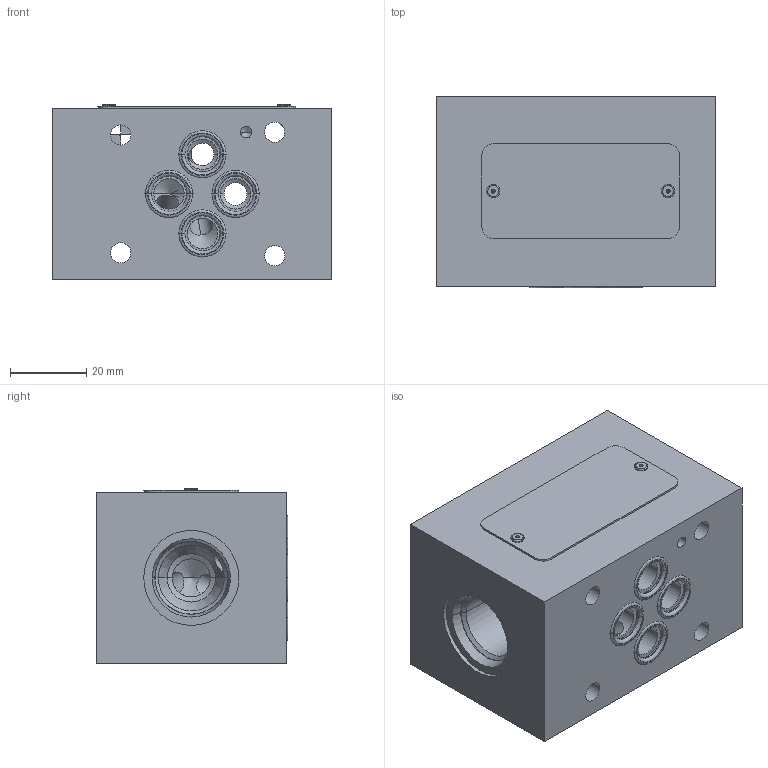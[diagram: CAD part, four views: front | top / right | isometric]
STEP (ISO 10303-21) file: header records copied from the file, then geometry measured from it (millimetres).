
FILE_DESCRIPTION((''),'2;1');
FILE_NAME('1000260574_ASM','2023-10-12T',('l.soukupova'),(''),'PRO/ENGINEER BY PARAMETRIC TECHNOLOGY CORPORATION, 2015440','PRO/ENGINEER BY PARAMETRIC TECHNOLOGY CORPORATION, 2015440','');
FILE_SCHEMA(('AUTOMOTIVE_DESIGN { 1 0 10303 214 1 1 1 1 }'));
Length unit declared in the file: millimetre
Products named in the file (5): 31474101; RD_LABEL_25X52_159703; AF_1932_16485; ORAR00012_201524; 1000260574_ASM
Assembly tree (8 placements, depth 2):
  1000260574_ASM
    31474101
    RD_LABEL_25X52_159703
    AF_1932_16485  x2
    ORAR00012_201524  x4
Bounding box: 73.5 x 50.38 x 46 mm (x, y, z)
Volume: 147091.7 mm3; surface area: 31949.1 mm2
Topology: 8 solids, 11 shells, 193 faces, 595 edges, 497 vertices
Faces by surface type: cylinder 94, torus 36, plane 34, cone 29
Entity records: 8966 total; most frequent: CARTESIAN_POINT 1918, DIRECTION 985, ORIENTED_EDGE 680, PRESENTATION_STYLE_ASSIGNMENT 601, STYLED_ITEM 527, CURVE_STYLE 521, AXIS2_PLACEMENT_3D 379, EDGE_CURVE 346
